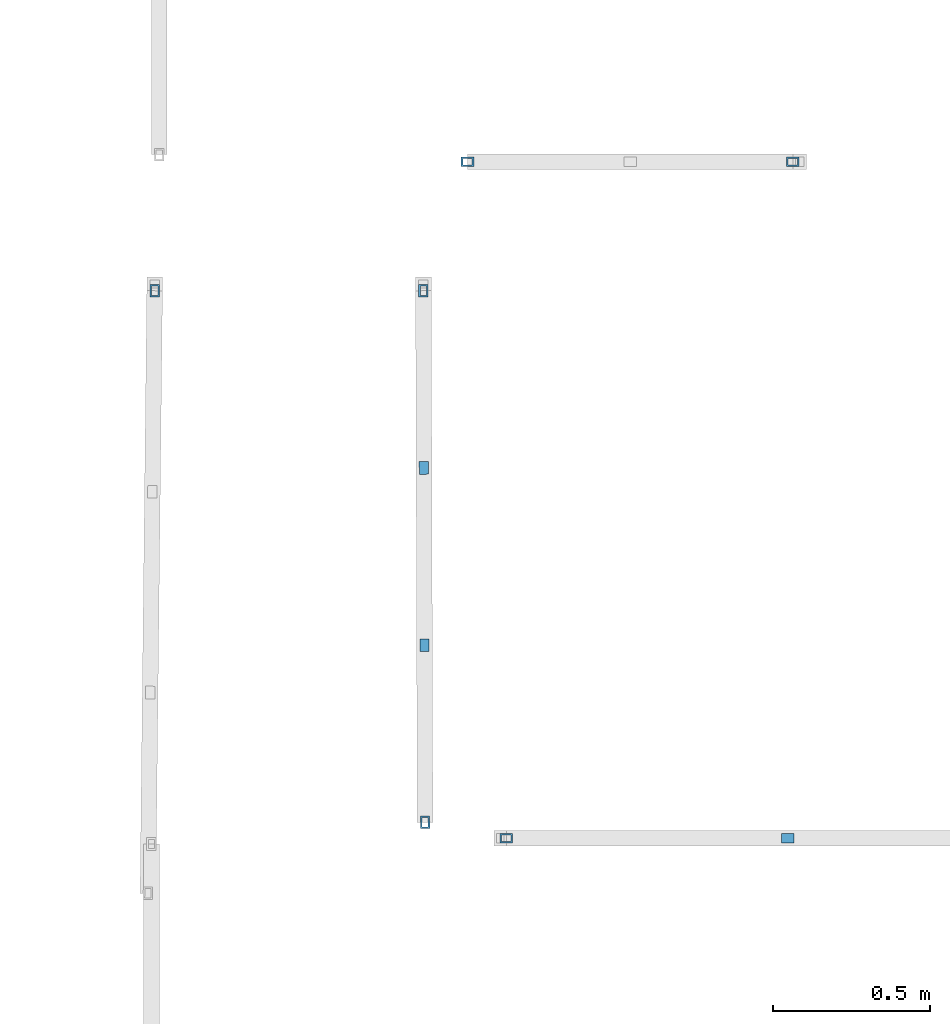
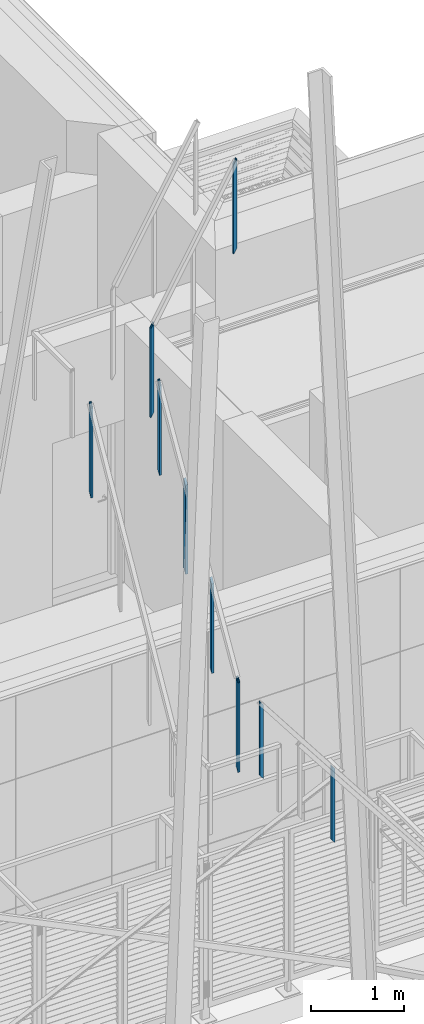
# One storey, part 9 of 418: 9 members, 4 elements without a shape of their own.
"""IFC2X3 building model written with IfcOpenShell, lengths in millimetres."""

from ifc_helpers import new_model, entity, si_unit, converted_unit, derived_unit, money_unit, direction, frame, origin_with_axes, place, context, subcontext, project, spatial, faceted_brep, source, transform, mapped, material, type_object, element, aggregate, save


model = new_model("IFC2X3")

# Units and contexts
model_context = context("Model", 3, precision=0.01, world=origin_with_axes(), true_north=direction((0.0, 1.0)))
body_context = subcontext(model_context, "Body", "Model", "MODEL_VIEW")
ifc_project = project(units=[si_unit("LENGTHUNIT", "METRE", prefix="MILLI"), si_unit("AREAUNIT", "SQUARE_METRE"), si_unit("VOLUMEUNIT", "CUBIC_METRE"), converted_unit("PLANEANGLEUNIT", "DEGREE", entity("IfcPlaneAngleMeasure", 0.0174532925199), si_unit("PLANEANGLEUNIT", "RADIAN"), dimensions=[0, 0, 0, 0, 0, 0, 0]), si_unit("SOLIDANGLEUNIT", "STERADIAN"), money_unit("EUR"), converted_unit("TIMEUNIT", "Year", entity("IfcTimeMeasure", 31556926.0), si_unit("TIMEUNIT", "SECOND"), dimensions=[0, 0, 1, 0, 0, 0, 0]), si_unit("MASSUNIT", "GRAM", prefix="KILO"), si_unit("THERMODYNAMICTEMPERATUREUNIT", "DEGREE_CELSIUS"), si_unit("LUMINOUSINTENSITYUNIT", "LUMEN"), si_unit("ENERGYUNIT", "JOULE", prefix="MEGA"), derived_unit("THERMALCONDUCTANCEUNIT", [(si_unit("POWERUNIT", "WATT"), 1), (si_unit("LENGTHUNIT", "METRE"), -1), (si_unit("THERMODYNAMICTEMPERATUREUNIT", "KELVIN"), -1)]), derived_unit("SPECIFICHEATCAPACITYUNIT", [(si_unit("ENERGYUNIT", "JOULE"), 1), (si_unit("MASSUNIT", "GRAM", prefix="KILO"), -1), (si_unit("THERMODYNAMICTEMPERATUREUNIT", "KELVIN"), -1)]), derived_unit("MASSDENSITYUNIT", [(si_unit("MASSUNIT", "GRAM", prefix="KILO"), 1), (si_unit("VOLUMEUNIT", "CUBIC_METRE"), -1)])], contexts=[model_context])

# Site, building, storey
site_placement = place(None, origin_with_axes())
site = spatial("IfcSite", under=ifc_project, at=site_placement, Name="Paldiski mnt 245/1, Tallinn, Harjumaa", CompositionType="COMPLEX")
building_placement = place(site_placement, origin_with_axes())
building = spatial("IfcBuilding", under=site, at=building_placement, Name="RKAS Hoone üldnimetus (kasutust iseloomustav) -> IFC Project Manager -> SOLIBRI", CompositionType="ELEMENT")
storey_placement = place(building_placement, origin_with_axes())
storey = spatial("IfcBuildingStorey", under=building, at=storey_placement, Name="Esimene korrus", CompositionType="ELEMENT", Elevation=0.0)

# Railing, members
railing_type = type_object("IfcRailingType", Name="Railing Type", PredefinedType="NOTDEFINED")
railing_1_placement = place(storey_placement, frame((-51169.8755361, -6565.24631697, 3489.375), z_axis=(0.0, 0.0, 1.0), x_axis=(-0.769638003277, -0.638480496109, 0.0)))
railing_1 = element("IfcRailing", 1, at=railing_1_placement, inside=storey, type_object=railing_type, Name="PIIRE", PredefinedType="NOTDEFINED")
ifc_material_1 = material(Name="ET-06_Teras - Konstruktsioon")
member_type = type_object("IfcMemberType", Name="IfcMember", PredefinedType="POST")
shared_shape_1 = source(origin_with_axes(), body_context, "Body", "Brep", [
    faceted_brep([(15.0, 20.0, 25.9276818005), (-15.0, 20.0, 25.9276818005), (-15.0, 20.0, 1005.9276818), (15.0, 20.0, 1005.9276818), (15.0, -20.0, -25.9276818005), (-15.0, -20.0, -25.9276818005), (10.0, 15.0, 19.4457613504), (-10.0, 15.0, 19.4457613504), (-10.0, -15.0, -19.4457613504), (10.0, -15.0, -19.4457613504), (-15.0, -20.0, 954.0723182), (15.0, -20.0, 954.0723182), (10.0, 15.0, 999.44576135), (10.0, -15.0, 960.55423865), (-10.0, -15.0, 960.55423865), (-10.0, 15.0, 999.44576135)], [[[0, 1, 2, 3]], [[0, 4, 5, 1], [6, 7, 8, 9]], [[1, 5, 10, 2]], [[3, 2, 10, 11], [12, 13, 14, 15]], [[4, 0, 3, 11]], [[5, 4, 11, 10]], [[7, 6, 12, 15]], [[8, 7, 15, 14]], [[9, 8, 14, 13]], [[6, 9, 13, 12]]]),
])
member_1_placement = place(railing_1_placement, frame((2064.00477338, -1712.26834702, 3376.62529469), z_axis=(0.0, 0.0, 1.0), x_axis=(-0.769638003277, 0.638480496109, 0.0)))
member_1 = element("IfcMember", 2, at=member_1_placement, type_object=member_type, material=ifc_material_1, Name="PIIRDE POST - 001", ObjectType="POST", context=body_context, shape_type="MappedRepresentation", body=[
    mapped(shared_shape_1, transform((0.0, 0.0, 0.0), x_axis=(0.0, 1.0, 0.0), y_axis=(-1.0, 0.0, 0.0), z_axis=(0.0, 0.0, 1.0))),
])
ifc_material_2 = material(Name="ET-07_Teras - Roostevaba")
shared_shape_2 = source(origin_with_axes(), body_context, "Body", "Brep", [
    faceted_brep([(15.0, 20.0, 25.9276818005), (-15.0, 20.0, 25.9276818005), (-15.0, 20.0, 1005.9276818), (15.0, 20.0, 1005.9276818), (15.0, -20.0, -25.9276818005), (-15.0, -20.0, -25.9276818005), (-15.0, -20.0, 954.0723182), (15.0, -20.0, 954.0723182)], [[[0, 1, 2, 3]], [[0, 4, 5, 1]], [[1, 5, 6, 2]], [[3, 2, 6, 7]], [[4, 0, 3, 7]], [[5, 4, 7, 6]]]),
])
member_2_placement = place(railing_1_placement, frame((1376.00318225, -1141.51223135, 2217.75019646), z_axis=(0.0, 0.0, 1.0), x_axis=(-0.769638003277, 0.638480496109, 0.0)))
member_2 = element("IfcMember", 3, at=member_2_placement, type_object=member_type, material=ifc_material_2, Name="Piirde Post - 001", ObjectType="POST", context=body_context, shape_type="MappedRepresentation", body=[
    mapped(shared_shape_2, transform((0.0, 0.0, 0.0), x_axis=(0.0, 1.0, 0.0), y_axis=(-1.0, 0.0, 0.0), z_axis=(0.0, 0.0, 1.0))),
])
aggregate(railing_1, [member_1, member_2])

railing_2_placement = place(storey_placement, frame((-53974.8755361, -4417.03979706, 10484.375), z_axis=(0.0, 0.0, 1.0), x_axis=(-0.773149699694, -0.634223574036, 0.0)))
railing_2 = element("IfcRailing", 4, at=railing_2_placement, inside=storey, type_object=railing_type, Name="PIIRE", PredefinedType="NOTDEFINED")
shared_shape_3 = source(origin_with_axes(), body_context, "Body", "Brep", [
    faceted_brep([(15.0, 20.0, 34.8905395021), (-15.0, 20.0, 34.8905395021), (-15.0, 20.0, 1214.8905395), (15.0, 20.0, 1214.8905395), (15.0, -20.0, -34.8905395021), (-15.0, -20.0, -34.8905395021), (10.0, 15.0, 26.1679046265), (-10.0, 15.0, 26.1679046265), (-10.0, -15.0, -26.1679046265), (10.0, -15.0, -26.1679046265), (-15.0, -20.0, 1145.1094605), (15.0, -20.0, 1145.1094605), (10.0, 15.0, 1206.16790463), (10.0, -15.0, 1153.83209537), (-10.0, -15.0, 1153.83209537), (-10.0, 15.0, 1206.16790463)], [[[0, 1, 2, 3]], [[0, 4, 5, 1], [6, 7, 8, 9]], [[1, 5, 10, 2]], [[3, 2, 10, 11], [12, 13, 14, 15]], [[4, 0, 3, 11]], [[5, 4, 11, 10]], [[7, 6, 12, 15]], [[8, 7, 15, 14]], [[9, 8, 14, 13]], [[6, 9, 13, 12]]]),
])
member_3_placement = place(railing_2_placement, frame((0.0, 0.0, -100.0), z_axis=(0.0, 0.0, 1.0), x_axis=(-0.773149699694, 0.634223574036, 0.0)))
member_3 = element("IfcMember", 5, at=member_3_placement, type_object=member_type, material=ifc_material_1, Name="PIIRDE POST - 001", ObjectType="POST", context=body_context, shape_type="MappedRepresentation", body=[
    mapped(shared_shape_3, transform((0.0, 0.0, 0.0), x_axis=(0.0, -1.0, 0.0), y_axis=(1.0, 0.0, 0.0), z_axis=(0.0, 0.0, 1.0))),
])
member_4_placement = place(railing_2_placement, frame((-799.075562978, 655.490857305, 1703.02582451), z_axis=(0.0, 0.0, 1.0), x_axis=(-0.773149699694, 0.634223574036, 0.0)))
member_4 = element("IfcMember", 6, at=member_4_placement, type_object=member_type, material=ifc_material_1, Name="PIIRDE POST - 001", ObjectType="POST", context=body_context, shape_type="MappedRepresentation", body=[
    mapped(shared_shape_3, transform((0.0, 0.0, 0.0), x_axis=(0.0, -1.0, 0.0), y_axis=(1.0, 0.0, 0.0), z_axis=(0.0, 0.0, 1.0))),
])
aggregate(railing_2, [member_3, member_4])

# Railing, member
railing_3_placement = place(storey_placement, frame((-54969.9885641, -6809.15801731, 6695.37509918), z_axis=(0.0, 0.0, 1.0), x_axis=(-0.779497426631, -0.626405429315, 0.0)))
railing_3 = element("IfcRailing", 7, at=railing_3_placement, inside=storey, type_object=railing_type, Name="PIIRE", PredefinedType="NOTDEFINED")
shared_shape_4 = source(origin_with_axes(), body_context, "Body", "Brep", [
    faceted_brep([(15.0, 20.0, 34.8015954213), (-15.0, 20.0, 34.8015954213), (-15.0, 20.0, 1214.80159542), (15.0, 20.0, 1214.80159542), (15.0, -20.0, -34.8015954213), (-15.0, -20.0, -34.8015954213), (10.0, 15.0, 26.101196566), (-10.0, 15.0, 26.101196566), (-10.0, -15.0, -26.101196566), (10.0, -15.0, -26.101196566), (-15.0, -20.0, 1145.19840458), (15.0, -20.0, 1145.19840458), (9.99999999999, 15.0, 1206.10119657), (9.99999999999, -15.0, 1153.89880343), (-10.0, -15.0, 1153.89880343), (-10.0, 15.0, 1206.10119657)], [[[0, 1, 2, 3]], [[0, 4, 5, 1], [6, 7, 8, 9]], [[1, 5, 10, 2]], [[3, 2, 10, 11], [12, 13, 14, 15]], [[4, 0, 3, 11]], [[5, 4, 11, 10]], [[7, 6, 12, 15]], [[8, 7, 15, 14]], [[9, 8, 14, 13]], [[6, 9, 13, 12]]]),
])
member_5_placement = place(railing_3_placement, frame((-1242.99330716, -1544.72483252, 3231.38019222), z_axis=(0.0, 0.0, 1.0), x_axis=(-0.779497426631, 0.626405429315, 0.0)))
member_5 = element("IfcMember", 8, at=member_5_placement, type_object=member_type, material=ifc_material_1, Name="PIIRDE POST - 001", ObjectType="POST", context=body_context, shape_type="MappedRepresentation", body=[
    mapped(shared_shape_4, transform((0.0, 0.0, 0.0), x_axis=(0.99993780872, -0.011152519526, 0.0), y_axis=(0.011152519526, 0.99993780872, 0.0), z_axis=(0.0, 0.0, 1.0))),
])
aggregate(railing_3, [member_5])

# Railing, members
railing_4_placement = place(storey_placement, frame((-54128.7198793, -6586.53415052, 7130.64215171), z_axis=(0.0, 0.0, 1.0), x_axis=(-0.854429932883, -0.519566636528, 0.0)))
railing_4 = element("IfcRailing", 9, at=railing_4_placement, inside=storey, type_object=railing_type, Name="PIIRE", PredefinedType="NOTDEFINED")
shared_shape_5 = source(origin_with_axes(), body_context, "Body", "Brep", [
    faceted_brep([(15.0, 20.0, 34.29742307), (-15.0, 20.0, 34.29742307), (-15.0, 20.0, 1214.29742307), (15.0, 20.0, 1214.29742307), (15.0, -20.0, -34.29742307), (-15.0, -20.0, -34.29742307), (10.0, 15.0, 25.7230673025), (-10.0, 15.0, 25.7230673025), (-10.0, -15.0, -25.7230673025), (10.0, -15.0, -25.7230673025), (-15.0, -20.0, 1145.70257693), (15.0, -20.0, 1145.70257693), (9.99999999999, 15.0, 1205.7230673), (9.99999999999, -15.0, 1154.2769327), (-10.0, -15.0, 1154.2769327), (-10.0, 15.0, 1205.7230673)], [[[0, 1, 2, 3]], [[0, 4, 5, 1], [6, 7, 8, 9]], [[1, 5, 10, 2]], [[3, 2, 10, 11], [12, 13, 14, 15]], [[4, 0, 3, 11]], [[5, 4, 11, 10]], [[7, 6, 12, 15]], [[8, 7, 15, 14]], [[9, 8, 14, 13]], [[6, 9, 13, 12]]]),
])
member_6_placement = place(railing_4_placement, frame((-53.1683700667, -51.102285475, -100.0), z_axis=(0.0, 0.0, 1.0), x_axis=(-0.854429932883, 0.519566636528, 0.0)))
member_6 = element("IfcMember", 10, at=member_6_placement, type_object=member_type, material=ifc_material_1, Name="PIIRDE POST - 001", ObjectType="POST", context=body_context, shape_type="MappedRepresentation", body=[
    mapped(shared_shape_5, transform((0.0, 0.0, 0.0), x_axis=(0.999995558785, 0.00298033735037, 0.0), y_axis=(-0.00298033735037, 0.999995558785, 0.0), z_axis=(0.0, 0.0, 1.0))),
])
member_7_placement = place(railing_4_placement, frame((-926.319775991, -1496.69156199, 2796.11313969), z_axis=(0.0, 0.0, 1.0), x_axis=(-0.854429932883, 0.519566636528, 0.0)))
member_7 = element("IfcMember", 11, at=member_7_placement, type_object=member_type, material=ifc_material_1, Name="PIIRDE POST - 001", ObjectType="POST", context=body_context, shape_type="MappedRepresentation", body=[
    mapped(shared_shape_5, transform((0.0, 0.0, 0.0), x_axis=(0.999995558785, 0.00298033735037, 0.0), y_axis=(-0.00298033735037, 0.999995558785, 0.0), z_axis=(0.0, 0.0, 1.0))),
])
shared_shape_6 = source(origin_with_axes(), body_context, "Body", "Brep", [
    faceted_brep([(15.0, 20.0, 34.29742307), (-15.0, 20.0, 34.29742307), (-15.0, 20.0, 1214.29742307), (15.0, 20.0, 1214.29742307), (15.0, -20.0, -34.29742307), (-15.0, -20.0, -34.29742307), (-15.0, -20.0, 1145.70257693), (15.0, -20.0, 1145.70257693)], [[[0, 1, 2, 3]], [[0, 4, 5, 1]], [[1, 5, 6, 2]], [[3, 2, 6, 7]], [[4, 0, 3, 7]], [[5, 4, 7, 6]]]),
])
member_8_placement = place(railing_4_placement, frame((-344.218838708, -532.965377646, 865.371046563), z_axis=(0.0, 0.0, 1.0), x_axis=(-0.854429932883, 0.519566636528, 0.0)))
member_8 = element("IfcMember", 12, at=member_8_placement, type_object=member_type, material=ifc_material_2, Name="Piirde Post - 001", ObjectType="POST", context=body_context, shape_type="MappedRepresentation", body=[
    mapped(shared_shape_6, transform((0.0, 0.0, 0.0), x_axis=(0.999995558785, 0.00298033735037, 0.0), y_axis=(-0.00298033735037, 0.999995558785, 0.0), z_axis=(0.0, 0.0, 1.0))),
])
member_9_placement = place(railing_4_placement, frame((-635.26930735, -1014.82846982, 1830.74209313), z_axis=(0.0, 0.0, 1.0), x_axis=(-0.854429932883, 0.519566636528, 0.0)))
member_9 = element("IfcMember", 13, at=member_9_placement, type_object=member_type, material=ifc_material_2, Name="Piirde Post - 001", ObjectType="POST", context=body_context, shape_type="MappedRepresentation", body=[
    mapped(shared_shape_6, transform((0.0, 0.0, 0.0), x_axis=(0.999995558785, 0.00298033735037, 0.0), y_axis=(-0.00298033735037, 0.999995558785, 0.0), z_axis=(0.0, 0.0, 1.0))),
])
aggregate(railing_4, [member_6, member_7, member_8, member_9])

save(model, "model.ifc")
